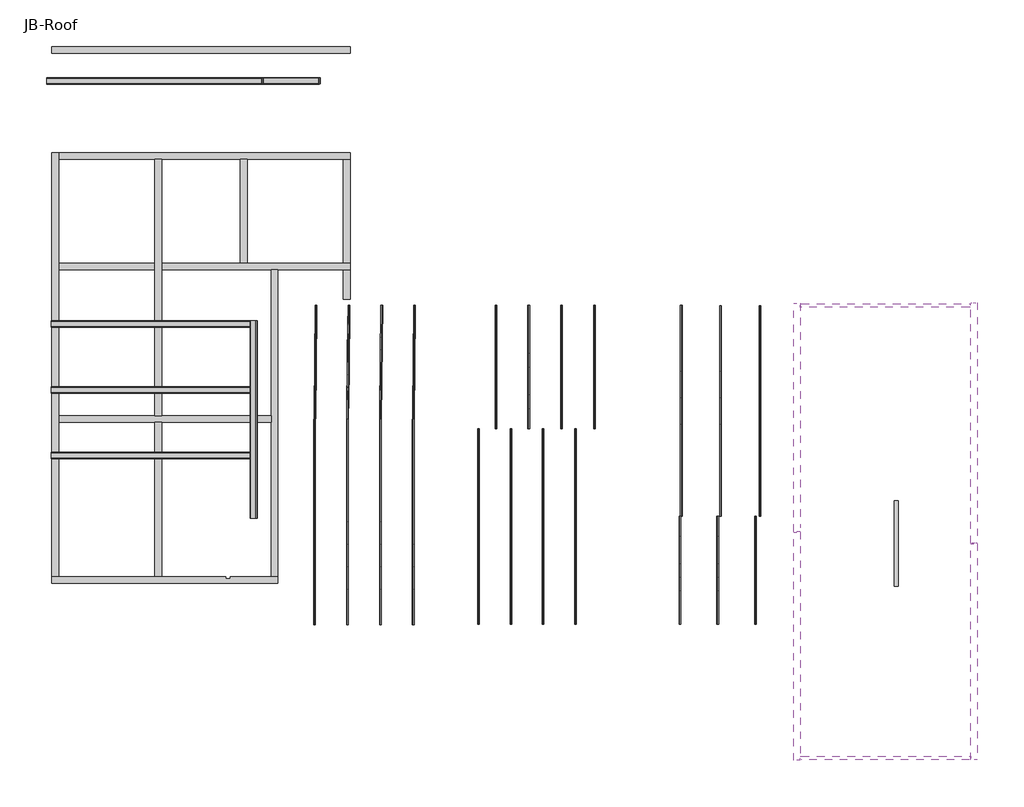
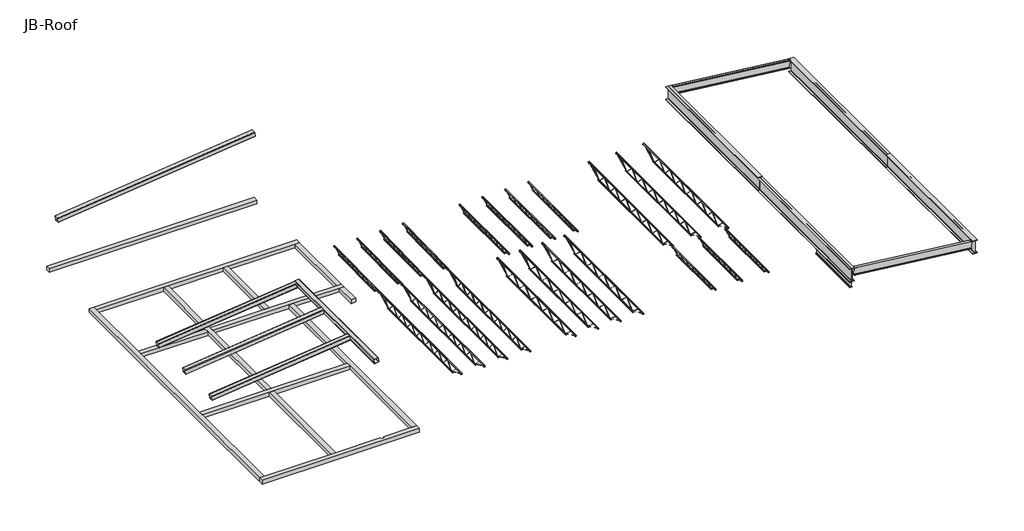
# One storey: 45 beams.
"""IFC4 building model written with IfcOpenShell, lengths in millimetres."""

from ifc_helpers import new_model, si_unit, frame, origin, place, context, project, spatial, polyline, outline, extrude, faceted_brep, transform, mapped, element, save
from components import hss_hollow_structural_section_hss12x12x1_2_65790d26, hss_hollow_structural_section_hss12x12x1_2_c205e00b, hss_hollow_structural_section_hss12x12x1_2_15489e63, hss_hollow_structural_section_hss12x12x1_2_75c03b45, hss_hollow_structural_section_hss12x12x1_2_070f9e11, k_series_bar_joist_rod_web_12k1_a6bee375, k_series_bar_joist_rod_web_12k1_562b93e1, k_series_bar_joist_rod_web_12k1_8968bb53, k_series_bar_joist_rod_web_22k4_82dcadde, k_series_bar_joist_rod_web_24k4_98bbd377, k_series_bar_joist_rod_web_24k4_0bbdf4ea, k_series_bar_joist_rod_web_24k4_b54f82ce, w_wide_flange_w14x30_17857959, w_wide_flange_w21x44_6d4e9764, w_wide_flange_w21x44_a0252540, w_wide_flange_w36x135_5b543eee, w_wide_flange_w36x135_1d218eeb, w_wide_flange_w36x135_915bd06f, w_wide_flange_w36x135_edb61ff3

model = new_model("IFC4")

# Units and contexts
model_context = context("Model", 3, world=origin())
ifc_project = project(units=[si_unit("LENGTHUNIT", "METRE", prefix="MILLI")], contexts=[model_context])

# Site, building, storey
site = spatial("IfcSite", under=ifc_project)
building = spatial("IfcBuilding", under=site)
storey = spatial("IfcBuildingStorey", under=building, Name="JB-Roof", Elevation=38468.3)

# Beams
placement = place(None, origin())
element("IfcBeam", 1, ObjectType="Concrete-Rectangular Beam : 12 x 18", at=placement, inside=storey, context=model_context, shape_type="Brep", body=[
    faceted_brep([(-20966.7454607, -5025.0304995, 33782.0), (-20560.3454607, -5025.0304995, 33782.0), (-16242.3454607, -5025.0304995, 33782.0), (-15835.9454607, -5025.0304995, 33782.0), (-10936.1763201, -5025.0304995, 33782.0), (-10529.7763201, -5025.0304995, 33782.0), (-10507.5513201, -5025.0304995, 33782.0), (-10507.5513201, -5025.0304995, 34036.0), (-20966.7454607, -5025.0304995, 34036.0), (-20966.7454607, -4720.2304995, 33782.0), (-20661.9454607, -4720.2304995, 33782.0), (-16191.5454607, -4720.2304995, 33782.0), (-15886.7454607, -4720.2304995, 33782.0), (-12913.3579607, -4720.2304995, 33782.0), (-12913.3579607, -4821.8304995, 33782.0), (-12710.1579607, -4821.8304995, 33782.0), (-12710.1579607, -4720.2304995, 33782.0), (-10812.3513201, -4720.2304995, 33782.0), (-10507.5513201, -4720.2304995, 33782.0), (-10507.5513201, -4720.2304995, 34036.0), (-12710.1579607, -4720.2304995, 34036.0), (-10812.3513201, -4720.2304995, 34036.0), (-20966.7454607, -4720.2304995, 34036.0), (-20661.9454607, -4720.2304995, 34036.0), (-16191.5454607, -4720.2304995, 34036.0), (-15886.7454607, -4720.2304995, 34036.0), (-12913.3579607, -4720.2304995, 34036.0), (-12710.1579607, -4821.8304995, 34036.0), (-12913.3579607, -4821.8304995, 34036.0)], [[[0, 1, 2, 3, 4, 5, 6, 7, 8]], [[0, 9, 10, 11, 12, 13, 14, 15, 16, 17, 18, 6, 5, 4, 3, 2, 1]], [[19, 18, 17, 16, 20, 21]], [[9, 0, 8, 22]], [[6, 18, 19, 7]], [[9, 22, 23, 24, 25, 26, 13, 12, 11, 10]], [[8, 7, 19, 21, 20, 27, 28, 26, 25, 24, 23, 22]], [[28, 14, 13, 26]], [[15, 27, 20, 16]], [[14, 28, 27, 15]]]),
])
element("IfcBeam", 2, ObjectType="Concrete-Rectangular Beam : 12 x 18", at=placement, inside=storey, context=model_context, shape_type="Brep", body=[
    faceted_brep([(-20661.9454607, 2429.8695005, 34036.0), (-20661.9454607, 2429.8695005, 33782.0), (-16191.5454607, 2429.8695005, 33782.0), (-15886.7454607, 2429.8695005, 33782.0), (-10812.3513201, 2429.8695005, 33782.0), (-10812.3513201, 2429.8695005, 34036.0), (-15886.7454607, 2429.8695005, 34036.0), (-16191.5454607, 2429.8695005, 34036.0), (-20661.9454607, 2734.6695005, 33782.0), (-16191.5454607, 2734.6695005, 33782.0), (-15886.7454607, 2734.6695005, 33782.0), (-10812.3513201, 2734.6695005, 33782.0), (-20661.9454607, 2734.6695005, 34036.0), (-16191.5454607, 2734.6695005, 34036.0), (-15886.7454607, 2734.6695005, 34036.0), (-10812.3513201, 2734.6695005, 34036.0)], [[[0, 1, 2, 3, 4, 5, 6, 7]], [[1, 8, 9, 10, 11, 4, 3, 2]], [[8, 12, 13, 14, 15, 11, 10, 9]], [[12, 0, 7, 6, 5, 15, 14, 13]], [[1, 0, 12, 8]], [[5, 4, 11, 15]]]),
])
element("IfcBeam", 3, ObjectType="Concrete-Rectangular Beam : 12 x 18", at=placement, inside=storey, context=model_context, shape_type="Brep", body=[
    faceted_brep([(-20661.9454607, -4720.2304995, 33782.0), (-20661.9454607, 2429.8695005, 33782.0), (-20661.9454607, 2734.6695005, 33782.0), (-20661.9454607, 9491.0695005, 33782.0), (-20661.9454607, 9795.8695005, 33782.0), (-20661.9454607, 14621.8695005, 33782.0), (-20661.9454607, 14926.6695005, 33782.0), (-20661.9454607, 14926.6695005, 34036.0), (-20661.9454607, 14621.8695005, 34036.0), (-20661.9454607, 9795.8695005, 34036.0), (-20661.9454607, 9491.0695005, 34036.0), (-20661.9454607, 2734.6695005, 34036.0), (-20661.9454607, 2429.8695005, 34036.0), (-20661.9454607, -4720.2304995, 34036.0), (-20966.7454607, -4720.2304995, 33782.0), (-20966.7454607, -4618.6304995, 33782.0), (-20966.7454607, 2379.0695005, 33782.0), (-20966.7454607, 2785.4695005, 33782.0), (-20966.7454607, 9491.0695005, 33782.0), (-20966.7454607, 9897.4695005, 33782.0), (-20966.7454607, 14520.2695005, 33782.0), (-20966.7454607, 14926.6695005, 33782.0), (-20966.7454607, -4720.2304995, 34036.0), (-20966.7454607, 14926.6695005, 34036.0)], [[[0, 1, 2, 3, 4, 5, 6, 7, 8, 9, 10, 11, 12, 13]], [[0, 14, 15, 16, 17, 18, 19, 20, 21, 6, 5, 4, 3, 2, 1]], [[21, 20, 19, 18, 17, 16, 15, 14, 22, 23]], [[14, 0, 13, 22]], [[13, 12, 11, 10, 9, 8, 7, 23, 22]], [[6, 21, 23, 7]]]),
])
element("IfcBeam", 4, ObjectType="Concrete-Rectangular Beam : 12 x 18", at=placement, inside=storey, context=model_context, shape_type="Brep", body=[
    faceted_brep([(-15886.7454607, 2734.6695005, 34036.0), (-15886.7454607, 2734.6695005, 33782.0), (-15886.7454607, 9491.0695005, 33782.0), (-15886.7454607, 9795.8695005, 33782.0), (-15886.7454607, 14621.8695005, 33782.0), (-15886.7454607, 14621.8695005, 34036.0), (-15886.7454607, 9795.8695005, 34036.0), (-15886.7454607, 9491.0695005, 34036.0), (-15886.7454607, 4866.6820005, 34036.0), (-15886.7454607, 4157.0695005, 34036.0), (-16191.5454607, 2734.6695005, 34036.0), (-16191.5454607, 2734.6695005, 33782.0), (-16191.5454607, 9491.0695005, 34036.0), (-16191.5454607, 9795.8695005, 34036.0), (-16191.5454607, 14621.8695005, 34036.0), (-16191.5454607, 14621.8695005, 33782.0), (-16191.5454607, 9795.8695005, 33782.0), (-16191.5454607, 9491.0695005, 33782.0)], [[[0, 1, 2, 3, 4, 5, 6, 7, 8, 9]], [[1, 0, 10, 11]], [[11, 10, 12, 13, 14, 15, 16, 17]], [[5, 4, 15, 14]], [[1, 11, 17, 16, 15, 4, 3, 2]], [[0, 9, 8, 7, 6, 5, 14, 13, 12, 10]]]),
    faceted_brep([(-15886.7454607, -4720.2304995, 33782.0), (-16191.5454607, -4720.2304995, 33782.0), (-16191.5454607, 2429.8695005, 33782.0), (-15886.7454607, 2429.8695005, 33782.0), (-16191.5454607, 2429.8695005, 34036.0), (-16191.5454607, -4720.2304995, 34036.0), (-15886.7454607, -4720.2304995, 34036.0), (-15886.7454607, 2429.8695005, 34036.0)], [[[0, 1, 2, 3]], [[4, 2, 1, 5]], [[1, 0, 6, 5]], [[6, 7, 4, 5]], [[7, 3, 2, 4]], [[3, 7, 6, 0]]]),
])
element("IfcBeam", 5, ObjectType="Concrete-Rectangular Beam : 12 x 18", at=placement, inside=storey, context=model_context, shape_type="Brep", body=[
    faceted_brep([(-10507.5513201, 8132.1695005, 34036.0), (-10507.5513201, -4720.2304995, 34036.0), (-10507.5513201, -4720.2304995, 33782.0), (-10507.5513201, 9491.0695005, 33782.0), (-10507.5513201, 9491.0695005, 34036.0), (-10812.3513201, -4720.2304995, 33782.0), (-10812.3513201, 2429.8695005, 33782.0), (-10812.3513201, 2734.6695005, 33782.0), (-10812.3513201, 9491.0695005, 33782.0), (-10812.3513201, -4720.2304995, 34036.0), (-10812.3513201, 2429.8695005, 34036.0), (-10812.3513201, 2734.6695005, 34036.0), (-10812.3513201, 9491.0695005, 34036.0)], [[[0, 1, 2, 3, 4]], [[2, 5, 6, 7, 8, 3]], [[5, 9, 10, 11, 12, 8, 7, 6]], [[5, 2, 1, 9]], [[1, 0, 4, 12, 11, 10, 9]], [[4, 3, 8, 12]]]),
])
element("IfcBeam", 6, ObjectType="Concrete-Rectangular Beam : 12 x 18", at=placement, inside=storey, context=model_context, shape_type="Brep", body=[
    faceted_brep([(-20661.9454607, 9491.0695005, 34036.0), (-20661.9454607, 9491.0695005, 33782.0), (-20560.3454607, 9491.0695005, 33782.0), (-16242.3454607, 9491.0695005, 33782.0), (-16191.5454607, 9491.0695005, 33782.0), (-16191.5454607, 9491.0695005, 34036.0), (-20661.9454607, 9795.8695005, 33782.0), (-16191.5454607, 9795.8695005, 33782.0), (-20661.9454607, 9795.8695005, 34036.0), (-16191.5454607, 9795.8695005, 34036.0)], [[[0, 1, 2, 3, 4, 5]], [[1, 6, 7, 4, 3, 2]], [[6, 8, 9, 7]], [[6, 1, 0, 8]], [[5, 4, 7, 9]], [[8, 0, 5, 9]]]),
    faceted_brep([(-7149.1454607, 9491.0695005, 33782.0), (-7149.1454607, 9491.0695005, 34036.0), (-7453.9454607, 9491.0695005, 34036.0), (-10507.5513201, 9491.0695005, 34036.0), (-10812.3513201, 9491.0695005, 34036.0), (-15886.7454607, 9491.0695005, 34036.0), (-15886.7454607, 9491.0695005, 33782.0), (-15835.9454607, 9491.0695005, 33782.0), (-12279.9454607, 9491.0695005, 33782.0), (-11873.5454607, 9491.0695005, 33782.0), (-10812.3513201, 9491.0695005, 33782.0), (-10507.5513201, 9491.0695005, 33782.0), (-7555.5454607, 9491.0695005, 33782.0), (-7453.9454607, 9491.0695005, 33782.0), (-7149.1454607, 9795.8695005, 34036.0), (-7149.1454607, 9795.8695005, 33782.0), (-7453.9454607, 9795.8695005, 33782.0), (-11924.3454607, 9795.8695005, 33782.0), (-12229.1454607, 9795.8695005, 33782.0), (-15886.7454607, 9795.8695005, 33782.0), (-15886.7454607, 9795.8695005, 34036.0), (-12229.1454607, 9795.8695005, 34036.0), (-11924.3454607, 9795.8695005, 34036.0), (-7453.9454607, 9795.8695005, 34036.0)], [[[0, 1, 2, 3, 4, 5, 6, 7, 8, 9, 10, 11, 12, 13]], [[14, 15, 16, 17, 18, 19, 20, 21, 22, 23]], [[15, 0, 13, 12, 11, 10, 9, 8, 7, 6, 19, 18, 17, 16]], [[0, 15, 14, 1]], [[1, 14, 23, 22, 21, 20, 5, 4, 3, 2]], [[6, 5, 20, 19]]]),
])
element("IfcBeam", 7, ObjectType="Concrete-Rectangular Beam : 12 x 18", at=placement, inside=storey, context=model_context, shape_type="Brep", body=[
    faceted_brep([(-20661.9454607, 14621.8695005, 33782.0), (-16191.5454607, 14621.8695005, 33782.0), (-15886.7454607, 14621.8695005, 33782.0), (-12229.1454607, 14621.8695005, 33782.0), (-11924.3454607, 14621.8695005, 33782.0), (-7453.9454607, 14621.8695005, 33782.0), (-7149.1454607, 14621.8695005, 33782.0), (-7149.1454607, 14621.8695005, 34036.0), (-7453.9454607, 14621.8695005, 34036.0), (-11924.3454607, 14621.8695005, 34036.0), (-12229.1454607, 14621.8695005, 34036.0), (-15886.7454607, 14621.8695005, 34036.0), (-16191.5454607, 14621.8695005, 34036.0), (-20661.9454607, 14621.8695005, 34036.0), (-20661.9454607, 14926.6695005, 33782.0), (-20560.3454607, 14926.6695005, 33782.0), (-16242.3454607, 14926.6695005, 33782.0), (-15835.9454607, 14926.6695005, 33782.0), (-12279.9454607, 14926.6695005, 33782.0), (-11873.5454607, 14926.6695005, 33782.0), (-7555.5454607, 14926.6695005, 33782.0), (-7149.1454607, 14926.6695005, 33782.0), (-20661.9454607, 14926.6695005, 34036.0), (-7149.1454607, 14926.6695005, 34036.0)], [[[0, 1, 2, 3, 4, 5, 6, 7, 8, 9, 10, 11, 12, 13]], [[0, 14, 15, 16, 17, 18, 19, 20, 21, 6, 5, 4, 3, 2, 1]], [[21, 20, 19, 18, 17, 16, 15, 14, 22, 23]], [[14, 0, 13, 22]], [[13, 12, 11, 10, 9, 8, 7, 23, 22]], [[6, 21, 23, 7]]]),
])
element("IfcBeam", 8, ObjectType="Concrete-Rectangular Beam : 12 x 18", at=placement, inside=storey, context=model_context, shape_type="SweptSolid", body=[
    extrude(outline(polyline([(-11924.3454607, 9795.8695005), (-12229.1454607, 9795.8695005), (-12229.1454607, 14621.8695005), (-11924.3454607, 14621.8695005), (-11924.3454607, 9795.8695005)])), frame((0.0, 0.0, 33782.0), z_axis=(0.0, 0.0, 1.0), x_axis=(1.0, 0.0, 0.0)), (0.0, 0.0, 1.0), 254.0),
])
element("IfcBeam", 9, ObjectType="Concrete-Rectangular Beam : 12 x 18", at=placement, inside=storey, context=model_context, shape_type="Brep", body=[
    faceted_brep([(-7453.9454607, 14621.8695005, 33782.0), (-7453.9454607, 9795.8695005, 33782.0), (-7453.9454607, 9795.8695005, 34036.0), (-7453.9454607, 14621.8695005, 34036.0), (-7149.1454607, 9795.8695005, 33782.0), (-7149.1454607, 14621.8695005, 33782.0), (-7149.1454607, 14520.2695005, 33782.0), (-7149.1454607, 9897.4695005, 33782.0), (-7149.1454607, 14621.8695005, 34036.0), (-7149.1454607, 9795.8695005, 34036.0)], [[[0, 1, 2, 3]], [[4, 1, 0, 5, 6, 7]], [[4, 7, 6, 5, 8, 9]], [[1, 4, 9, 2]], [[5, 0, 3, 8]], [[3, 2, 9, 8]]]),
])
element("IfcBeam", 10, ObjectType="Concrete-Rectangular Beam : 12 x 18", at=placement, inside=storey, context=model_context, shape_type="SweptSolid", body=[
    extrude(outline(polyline([(-7149.1454607, 19847.9195005), (-7149.1454607, 19543.1195005), (-20966.7454607, 19543.1195005), (-20966.7454607, 19847.9195005), (-7149.1454607, 19847.9195005)])), frame((0.0, 0.0, 33782.0), z_axis=(0.0, 0.0, 1.0), x_axis=(1.0, 0.0, 0.0)), (0.0, 0.0, 1.0), 254.0),
])
element("IfcBeam", 11, ObjectType="Concrete-Rectangular Beam : 12 x 18", at=placement, inside=storey, context=model_context, shape_type="SweptSolid", body=[
    extrude(outline(polyline([(-7453.9454607, 8132.1695005), (-7453.9454607, 9491.0695005), (-7149.1454607, 9491.0695005), (-7149.1454607, 8132.1695005), (-7453.9454607, 8132.1695005)])), frame((0.0, 0.0, 33782.0), z_axis=(0.0, 0.0, 1.0), x_axis=(1.0, 0.0, 0.0)), (0.0, 0.0, 1.0), 254.0),
])
hss_hollow_structural_section_hss12x12x1_2_shape = hss_hollow_structural_section_hss12x12x1_2_65790d26(model_context)
element("IfcBeam", 12, ObjectType="HSS-Hollow Structural Section : HSS12X12X1/2", at=placement, inside=storey, context=model_context, shape_type="MappedRepresentation", body=[
    mapped(hss_hollow_structural_section_hss12x12x1_2_shape, transform((-14730.32539, 18252.7995005, 39127.1188846), x_axis=(-0.9938030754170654, 0.0, -0.11115505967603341), y_axis=(0.0, -1.0, 0.0), z_axis=(-0.11115505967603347, 0.0, 0.9938030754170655))),
])
hss_hollow_structural_section_hss12x12x1_2_2_shape = hss_hollow_structural_section_hss12x12x1_2_c205e00b(model_context)
element("IfcBeam", 13, ObjectType="HSS-Hollow Structural Section : HSS12X12X1/2", at=placement, inside=storey, context=model_context, shape_type="MappedRepresentation", body=[
    mapped(hss_hollow_structural_section_hss12x12x1_2_2_shape, transform((-11619.5622499, 2480.6695005, 37366.8520628), x_axis=(0.0, -1.0, 0.0), y_axis=(0.9938030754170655, 0.0, 0.11115505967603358), z_axis=(-0.11115505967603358, 0.0, 0.9938030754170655))),
])
hss_hollow_structural_section_hss12x12x1_2_3_shape = hss_hollow_structural_section_hss12x12x1_2_15489e63(model_context)
element("IfcBeam", 14, ObjectType="HSS-Hollow Structural Section : HSS12X12X1/2", at=placement, inside=storey, context=model_context, shape_type="MappedRepresentation", body=[
    mapped(hss_hollow_structural_section_hss12x12x1_2_3_shape, transform((-16306.9056735, 6976.4695005, 36842.5812582), x_axis=(0.9938030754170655, 0.0, 0.1111550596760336), y_axis=(0.0, 1.0000000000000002, 0.0), z_axis=(-0.1111550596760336, 0.0, 0.9938030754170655))),
])
hss_hollow_structural_section_hss12x12x1_2_4_shape = hss_hollow_structural_section_hss12x12x1_2_75c03b45(model_context)
element("IfcBeam", 15, ObjectType="HSS-Hollow Structural Section : HSS12X12X1/2", at=placement, inside=storey, context=model_context, shape_type="MappedRepresentation", body=[
    mapped(hss_hollow_structural_section_hss12x12x1_2_4_shape, transform((-16306.6763225, 880.4695005, 36842.6069107), x_axis=(0.9938030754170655, 0.0, 0.11115505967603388), y_axis=(0.0, 1.0000000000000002, 0.0), z_axis=(-0.11115505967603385, 0.0, 0.9938030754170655))),
])
hss_hollow_structural_section_hss12x12x1_2_5_shape = hss_hollow_structural_section_hss12x12x1_2_070f9e11(model_context)
element("IfcBeam", 16, ObjectType="HSS-Hollow Structural Section : HSS12X12X1/2", at=placement, inside=storey, context=model_context, shape_type="MappedRepresentation", body=[
    mapped(hss_hollow_structural_section_hss12x12x1_2_5_shape, transform((-16306.6771812, 3928.4695005, 36842.6068146), x_axis=(0.9938030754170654, 0.0, 0.11115505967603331), y_axis=(0.0, 1.0, 0.0), z_axis=(-0.11115505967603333, 0.0, 0.9938030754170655))),
])
k_series_bar_joist_rod_web_12k1_shape = k_series_bar_joist_rod_web_12k1_a6bee375(model_context)
element("IfcBeam", 17, ObjectType="K-Series Bar Joist-Rod Web : 12K1", at=placement, inside=storey, context=model_context, shape_type="MappedRepresentation", body=[
    mapped(k_series_bar_joist_rod_web_12k1_shape, transform((4185.6045393, 4984.1570005, 38315.9), x_axis=(0.0, -1.0, 0.0), y_axis=(1.0, 0.0, 0.0), z_axis=(0.0, 0.0, 1.0))),
])
element("IfcBeam", 18, ObjectType="K-Series Bar Joist-Rod Web : 12K1", at=placement, inside=storey, context=model_context, shape_type="MappedRepresentation", body=[
    mapped(k_series_bar_joist_rod_web_12k1_shape, transform((2661.6045393, 4984.1570005, 38315.9), x_axis=(0.0, -1.0, 0.0), y_axis=(1.0, 0.0, 0.0), z_axis=(0.0, 0.0, 1.0))),
])
element("IfcBeam", 19, ObjectType="K-Series Bar Joist-Rod Web : 12K1", at=placement, inside=storey, context=model_context, shape_type="MappedRepresentation", body=[
    mapped(k_series_bar_joist_rod_web_12k1_shape, transform((1137.6045393, 4984.1570005, 38315.9), x_axis=(0.0, -1.0, 0.0), y_axis=(1.0, 0.0, 0.0), z_axis=(0.0, 0.0, 1.0))),
])
element("IfcBeam", 20, ObjectType="K-Series Bar Joist-Rod Web : 12K1", at=placement, inside=storey, context=model_context, shape_type="MappedRepresentation", body=[
    mapped(k_series_bar_joist_rod_web_12k1_shape, transform((-386.3954607, 4984.1570005, 38315.9), x_axis=(0.0, -1.0, 0.0), y_axis=(1.0, 0.0, 0.0), z_axis=(0.0, 0.0, 1.0))),
])
k_series_bar_joist_rod_web_12k1_2_shape = k_series_bar_joist_rod_web_12k1_562b93e1(model_context)
element("IfcBeam", 21, ObjectType="K-Series Bar Joist-Rod Web : 12K1", at=placement, inside=storey, context=model_context, shape_type="MappedRepresentation", body=[
    mapped(k_series_bar_joist_rod_web_12k1_2_shape, transform((11654.3951643, -4439.2429995, 38315.9), x_axis=(0.0, -1.0, 0.0), y_axis=(1.0, 0.0, 0.0), z_axis=(0.0, 0.0, 1.0))),
])
element("IfcBeam", 22, ObjectType="K-Series Bar Joist-Rod Web : 12K1", at=placement, inside=storey, context=model_context, shape_type="MappedRepresentation", body=[
    mapped(k_series_bar_joist_rod_web_12k1_2_shape, transform((9896.6357893, -4439.2429995, 38315.9), x_axis=(0.0, -1.0, 0.0), y_axis=(1.0, 0.0, 0.0), z_axis=(0.0, 0.0, 1.0))),
])
k_series_bar_joist_rod_web_12k1_3_shape = k_series_bar_joist_rod_web_12k1_8968bb53(model_context)
element("IfcBeam", 23, ObjectType="K-Series Bar Joist-Rod Web : 12K1", at=placement, inside=storey, context=model_context, shape_type="MappedRepresentation", body=[
    mapped(k_series_bar_joist_rod_web_12k1_3_shape, transform((-8753.9884159, 5212.7570005, 38315.9), x_axis=(0.010666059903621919, 0.9999431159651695, 0.0), y_axis=(-0.9999431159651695, 0.010666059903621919, 0.0), z_axis=(0.0, 0.0, 1.0))),
])
element("IfcBeam", 24, ObjectType="K-Series Bar Joist-Rod Web : 12K1", at=placement, inside=storey, context=model_context, shape_type="MappedRepresentation", body=[
    mapped(k_series_bar_joist_rod_web_12k1_3_shape, transform((-5707.8939216, 5212.7570005, 38315.9), x_axis=(0.010666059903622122, 0.9999431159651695, 0.0), y_axis=(-0.9999431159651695, 0.010666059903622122, 0.0), z_axis=(0.0, 0.0, 1.0))),
])
element("IfcBeam", 25, ObjectType="K-Series Bar Joist-Rod Web : 12K1", at=placement, inside=storey, context=model_context, shape_type="MappedRepresentation", body=[
    mapped(k_series_bar_joist_rod_web_12k1_3_shape, transform((-4184.8466745, 5212.7570005, 38315.9), x_axis=(0.010666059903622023, 0.9999431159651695, 0.0), y_axis=(-0.9999431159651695, 0.010666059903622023, 0.0), z_axis=(0.0, 0.0, 1.0))),
])
element("IfcBeam", 26, ObjectType="K-Series Bar Joist-Rod Web : 12K1", at=placement, inside=storey, context=model_context, shape_type="MappedRepresentation", body=[
    mapped(k_series_bar_joist_rod_web_12k1_3_shape, transform((-7230.9411688, 5212.7570005, 38315.9), x_axis=(0.010666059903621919, 0.9999431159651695, 0.0), y_axis=(-0.9999431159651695, 0.010666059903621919, 0.0), z_axis=(0.0, 0.0, 1.0))),
])
element("IfcBeam", 27, ObjectType="K-Series Bar Joist-Rod Web : 12K1", at=placement, inside=storey, context=model_context, shape_type="MappedRepresentation", body=[
    mapped(k_series_bar_joist_rod_web_12k1_2_shape, transform((8138.8764143, -4439.2429995, 38315.9), x_axis=(0.0, -1.0, 0.0), y_axis=(1.0, 0.0, 0.0), z_axis=(0.0, 0.0, 1.0))),
])
k_series_bar_joist_rod_web_22k4_shape = k_series_bar_joist_rod_web_22k4_82dcadde(model_context)
element("IfcBeam", 28, ObjectType="K-Series Bar Joist-Rod Web : 22K4", at=placement, inside=storey, context=model_context, shape_type="MappedRepresentation", body=[
    mapped(k_series_bar_joist_rod_web_22k4_shape, transform((-8799.8279607, -2186.2515659, 38188.9), x_axis=(0.0, -1.0, 0.0), y_axis=(1.0, 0.0, 0.0), z_axis=(0.0, 0.0, 1.0))),
])
element("IfcBeam", 29, ObjectType="K-Series Bar Joist-Rod Web : 22K4", at=placement, inside=storey, context=model_context, shape_type="MappedRepresentation", body=[
    mapped(k_series_bar_joist_rod_web_22k4_shape, transform((-7272.3354607, -2187.3664501, 38188.9), x_axis=(0.0, -1.0, 0.0), y_axis=(1.0, 0.0, 0.0), z_axis=(0.0, 0.0, 1.0))),
])
element("IfcBeam", 30, ObjectType="K-Series Bar Joist-Rod Web : 22K4", at=placement, inside=storey, context=model_context, shape_type="MappedRepresentation", body=[
    mapped(k_series_bar_joist_rod_web_22k4_shape, transform((-5744.8429607, -2188.4813342, 38188.9), x_axis=(0.0, -1.0, 0.0), y_axis=(1.0, 0.0, 0.0), z_axis=(0.0, 0.0, 1.0))),
])
element("IfcBeam", 31, ObjectType="K-Series Bar Joist-Rod Web : 22K4", at=placement, inside=storey, context=model_context, shape_type="MappedRepresentation", body=[
    mapped(k_series_bar_joist_rod_web_22k4_shape, transform((-4217.3504607, -2189.5962184, 38188.9), x_axis=(0.0, -1.0, 0.0), y_axis=(1.0, 0.0, 0.0), z_axis=(0.0, 0.0, 1.0))),
])
k_series_bar_joist_rod_web_24k4_shape = k_series_bar_joist_rod_web_24k4_98bbd377(model_context)
element("IfcBeam", 32, ObjectType="K-Series Bar Joist-Rod Web : 24K4", at=placement, inside=storey, context=model_context, shape_type="MappedRepresentation", body=[
    mapped(k_series_bar_joist_rod_web_24k4_shape, transform((-1192.8454607, -2408.8304995, 38163.5), x_axis=(0.0, 1.0, 0.0), y_axis=(-1.0, 0.0, 0.0), z_axis=(0.0, 0.0, 1.0))),
])
element("IfcBeam", 33, ObjectType="K-Series Bar Joist-Rod Web : 24K4", at=placement, inside=storey, context=model_context, shape_type="MappedRepresentation", body=[
    mapped(k_series_bar_joist_rod_web_24k4_shape, transform((304.1670393, -2408.8304995, 38163.5), x_axis=(0.0, 1.0, 0.0), y_axis=(-1.0, 0.0, 0.0), z_axis=(0.0, 0.0, 1.0))),
])
element("IfcBeam", 34, ObjectType="K-Series Bar Joist-Rod Web : 24K4", at=placement, inside=storey, context=model_context, shape_type="MappedRepresentation", body=[
    mapped(k_series_bar_joist_rod_web_24k4_shape, transform((1801.1795393, -2408.8304995, 38163.5), x_axis=(0.0, 1.0, 0.0), y_axis=(-1.0, 0.0, 0.0), z_axis=(0.0, 0.0, 1.0))),
])
element("IfcBeam", 35, ObjectType="K-Series Bar Joist-Rod Web : 24K4", at=placement, inside=storey, context=model_context, shape_type="MappedRepresentation", body=[
    mapped(k_series_bar_joist_rod_web_24k4_shape, transform((3298.1920393, -2408.8304995, 38163.5), x_axis=(0.0, 1.0, 0.0), y_axis=(-1.0, 0.0, 0.0), z_axis=(0.0, 0.0, 1.0))),
])
k_series_bar_joist_rod_web_24k4_2_shape = k_series_bar_joist_rod_web_24k4_0bbdf4ea(model_context)
element("IfcBeam", 36, ObjectType="K-Series Bar Joist-Rod Web : 24K4", at=placement, inside=storey, context=model_context, shape_type="MappedRepresentation", body=[
    mapped(k_series_bar_joist_rod_web_24k4_2_shape, transform((10031.5732893, 2953.7445005, 38163.5), x_axis=(0.0, 1.0, 0.0), y_axis=(-1.0, 0.0, 0.0), z_axis=(0.0, 0.0, 1.0))),
])
element("IfcBeam", 37, ObjectType="K-Series Bar Joist-Rod Web : 24K4", at=placement, inside=storey, context=model_context, shape_type="MappedRepresentation", body=[
    mapped(k_series_bar_joist_rod_web_24k4_2_shape, transform((11856.8014143, 2953.7445005, 38163.5), x_axis=(0.0, 1.0, 0.0), y_axis=(-1.0, 0.0, 0.0), z_axis=(0.0, 0.0, 1.0))),
])
k_series_bar_joist_rod_web_24k4_3_shape = k_series_bar_joist_rod_web_24k4_b54f82ce(model_context)
element("IfcBeam", 38, ObjectType="K-Series Bar Joist-Rod Web : 24K4", at=placement, inside=storey, context=model_context, shape_type="MappedRepresentation", body=[
    mapped(k_series_bar_joist_rod_web_24k4_3_shape, transform((8206.3451643, 2953.7445005, 38163.5), x_axis=(0.0, 1.0, 0.0), y_axis=(-1.0, 0.0, 0.0), z_axis=(0.0, 0.0, 1.0))),
])
w_wide_flange_w14x30_shape = w_wide_flange_w14x30_17857959(model_context)
element("IfcBeam", 39, ObjectType="W-Wide Flange : W14X30", at=placement, inside=storey, context=model_context, shape_type="MappedRepresentation", body=[
    mapped(w_wide_flange_w14x30_shape, transform((18172.4717268, -3175.5929995, 34203.1339844), x_axis=(0.0, -1.0, 0.0), y_axis=(1.0, 0.0, 0.0), z_axis=(0.0, 0.0, 1.0))),
])
w_wide_flange_w21x44_shape = w_wide_flange_w21x44_6d4e9764(model_context)
element("IfcBeam", 40, ObjectType="W-Wide Flange : W21X44", at=placement, inside=storey, context=model_context, shape_type="MappedRepresentation", body=[
    mapped(w_wide_flange_w21x44_shape, transform((17645.9365475, -13140.3801089, 41130.1521404), x_axis=(0.993803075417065, 0.0, -0.11115505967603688), y_axis=(0.0, 1.0, 0.0), z_axis=(0.11115505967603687, 0.0, 0.9938030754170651))),
])
w_wide_flange_w21x44_2_shape = w_wide_flange_w21x44_a0252540(model_context)
element("IfcBeam", 41, ObjectType="W-Wide Flange : W21X44", at=placement, inside=storey, context=model_context, shape_type="MappedRepresentation", body=[
    mapped(w_wide_flange_w21x44_2_shape, transform((17638.6854017, 7843.2445005, 41130.9631679), x_axis=(0.9938030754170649, 0.0, -0.11115505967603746), y_axis=(0.0, 1.0, 0.0), z_axis=(0.1111550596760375, 0.0, 0.993803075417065))),
])
w_wide_flange_w36x135_shape = w_wide_flange_w36x135_5b543eee(model_context)
element("IfcBeam", 42, ObjectType="W-Wide Flange : W36X135", at=placement, inside=storey, context=model_context, shape_type="MappedRepresentation", body=[
    mapped(w_wide_flange_w36x135_shape, transform((13565.7883392, 2597.3376982, 41398.9185367), x_axis=(-1.2852700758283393e-05, -0.9999999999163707, 1.4375511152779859e-06), y_axis=(0.9999999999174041, -1.2852700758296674e-05, 0.0), z_axis=(1.8476414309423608e-11, 1.4375511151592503e-06, 0.9999999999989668))),
])
w_wide_flange_w36x135_2_shape = w_wide_flange_w36x135_1d218eeb(model_context)
element("IfcBeam", 43, ObjectType="W-Wide Flange : W36X135", at=placement, inside=storey, context=model_context, shape_type="MappedRepresentation", body=[
    mapped(w_wide_flange_w36x135_2_shape, transform((21769.9581474, 2329.8487323, 40481.2971213), x_axis=(0.0, -1.0, 0.0), y_axis=(1.0, 0.0, 0.0), z_axis=(0.0, 0.0, 1.0))),
])
w_wide_flange_w36x135_3_shape = w_wide_flange_w36x135_915bd06f(model_context)
element("IfcBeam", 44, ObjectType="W-Wide Flange : W36X135", at=placement, inside=storey, context=model_context, shape_type="MappedRepresentation", body=[
    mapped(w_wide_flange_w36x135_3_shape, transform((21777.34403, -8161.8885485, 40480.4710176), x_axis=(0.0014836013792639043, -0.9999988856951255, -0.00016593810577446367), y_axis=(0.9999988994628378, 0.0014836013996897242, 0.0), z_axis=(2.461860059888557e-07, -0.00016593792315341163, 0.9999999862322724))),
])
w_wide_flange_w36x135_4_shape = w_wide_flange_w36x135_edb61ff3(model_context)
element("IfcBeam", 45, ObjectType="W-Wide Flange : W36X135", at=placement, inside=storey, context=model_context, shape_type="MappedRepresentation", body=[
    mapped(w_wide_flange_w36x135_4_shape, transform((13565.6534911, -7894.4746065, 41398.9336192), x_axis=(-1.2852700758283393e-05, -0.9999999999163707, 1.4375511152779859e-06), y_axis=(0.999999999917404, -1.2852700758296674e-05, 0.0), z_axis=(1.8476414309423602e-11, 1.4375511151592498e-06, 0.9999999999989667))),
])

save(model, "model.ifc")
